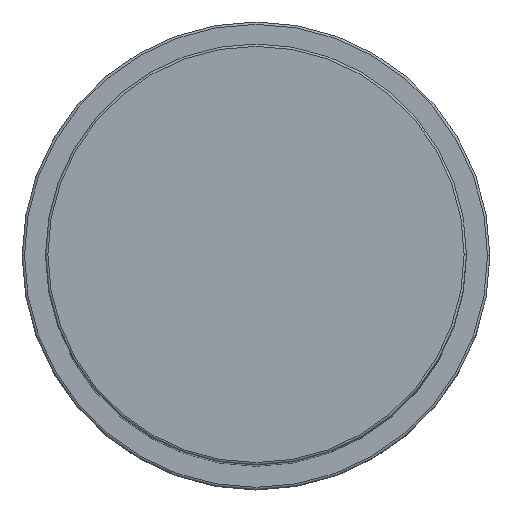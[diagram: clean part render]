
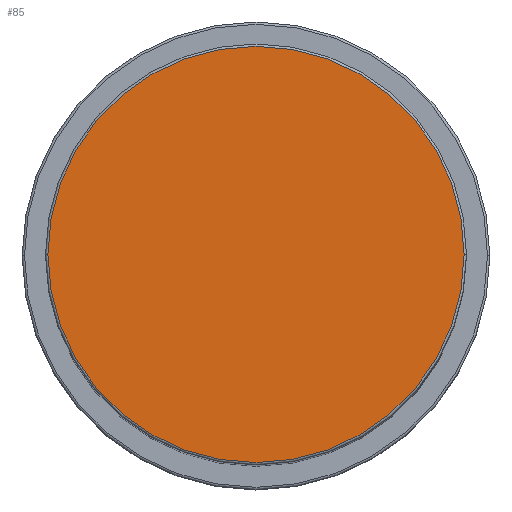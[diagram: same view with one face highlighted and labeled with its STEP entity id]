
A CAD part, top view. The second image highlights one B-rep face of the part: STEP entity #85.
In plain terms, the highlighted planar face has unit normal (0, 0, 1).
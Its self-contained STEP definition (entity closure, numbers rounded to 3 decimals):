
#73 = CARTESIAN_POINT ( 'NONE',  ( 0., 0., 189. ) ) ;
#85 = ADVANCED_FACE ( 'NONE', ( #1201 ), #620, .T. ) ;
#89 = DIRECTION ( 'NONE',  ( 0., 0., 1. ) ) ;
#121 = EDGE_CURVE ( 'NONE', #1121, #409, #1270, .T. ) ;
#207 = CIRCLE ( 'NONE', #244, 44.5 ) ;
#244 = AXIS2_PLACEMENT_3D ( 'NONE', #73, #89, #1828 ) ;
#301 = ORIENTED_EDGE ( 'NONE', *, *, #121, .T. ) ;
#409 = VERTEX_POINT ( 'NONE', #1073 ) ;
#465 = CARTESIAN_POINT ( 'NONE',  ( 0., 0., 189. ) ) ;
#470 = DIRECTION ( 'NONE',  ( 0., 0., 1. ) ) ;
#476 = AXIS2_PLACEMENT_3D ( 'NONE', #1908, #796, #1283 ) ;
#486 = DIRECTION ( 'NONE',  ( 1., 0., 0. ) ) ;
#620 = PLANE ( 'NONE',  #476 ) ;
#679 = CARTESIAN_POINT ( 'NONE',  ( 44.5, 0., 189. ) ) ;
#716 = EDGE_LOOP ( 'NONE', ( #301, #945 ) ) ;
#796 = DIRECTION ( 'NONE',  ( 0., 0., 1. ) ) ;
#945 = ORIENTED_EDGE ( 'NONE', *, *, #1805, .T. ) ;
#1073 = CARTESIAN_POINT ( 'NONE',  ( -44.5, 0., 189. ) ) ;
#1121 = VERTEX_POINT ( 'NONE', #679 ) ;
#1201 = FACE_OUTER_BOUND ( 'NONE', #716, .T. ) ;
#1270 = CIRCLE ( 'NONE', #2053, 44.5 ) ;
#1283 = DIRECTION ( 'NONE',  ( 1., 0., 0. ) ) ;
#1805 = EDGE_CURVE ( 'NONE', #409, #1121, #207, .T. ) ;
#1828 = DIRECTION ( 'NONE',  ( 1., 0., 0. ) ) ;
#1908 = CARTESIAN_POINT ( 'NONE',  ( 0., 0., 189. ) ) ;
#2053 = AXIS2_PLACEMENT_3D ( 'NONE', #465, #470, #486 ) ;
